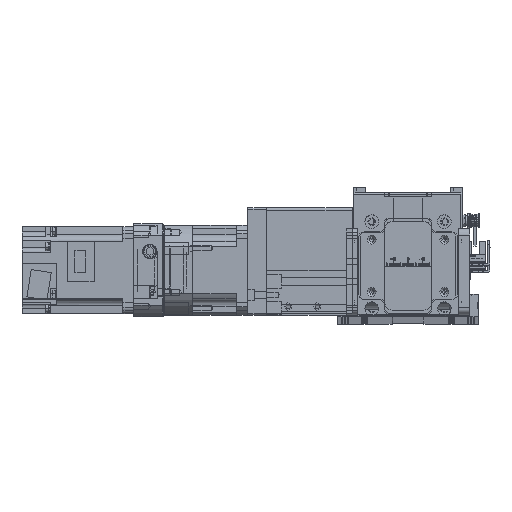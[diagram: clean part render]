
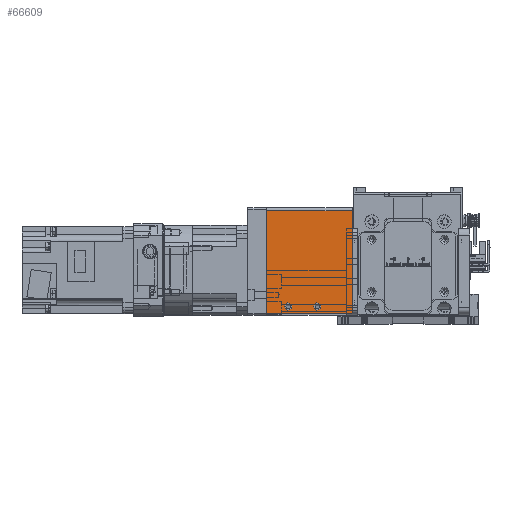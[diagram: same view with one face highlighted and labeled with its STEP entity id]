
A CAD part, top view. The second image highlights one B-rep face of the part: STEP entity #66609.
In plain terms, the highlighted planar face has unit normal (0, 0, 1).
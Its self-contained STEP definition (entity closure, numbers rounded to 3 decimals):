
#3441=FACE_BOUND('',#10524,.T.);
#3442=FACE_BOUND('',#10525,.T.);
#6314=FACE_OUTER_BOUND('',#10523,.T.);
#10523=EDGE_LOOP('',(#56927,#56928,#56929,#56930,#56931,#56932));
#10524=EDGE_LOOP('',(#56933));
#10525=EDGE_LOOP('',(#56934));
#14113=CIRCLE('',#74038,2.5);
#14117=CIRCLE('',#74044,2.5);
#14121=CIRCLE('',#74050,1.);
#14125=CIRCLE('',#74056,1.);
#18284=LINE('',#114963,#24277);
#18291=LINE('',#114981,#24284);
#18292=LINE('',#114985,#24285);
#18293=LINE('',#114986,#24286);
#24277=VECTOR('',#90660,10.);
#24284=VECTOR('',#90673,10.);
#24285=VECTOR('',#90676,10.);
#24286=VECTOR('',#90677,10.);
#31153=VERTEX_POINT('',#114929);
#31157=VERTEX_POINT('',#114941);
#31161=VERTEX_POINT('',#114953);
#31162=VERTEX_POINT('',#114954);
#31165=VERTEX_POINT('',#114962);
#31173=VERTEX_POINT('',#114980);
#31174=VERTEX_POINT('',#114982);
#31175=VERTEX_POINT('',#114984);
#39997=EDGE_CURVE('',#31153,#31153,#14113,.T.);
#40003=EDGE_CURVE('',#31157,#31157,#14117,.T.);
#40009=EDGE_CURVE('',#31161,#31162,#14121,.T.);
#40013=EDGE_CURVE('',#31162,#31165,#18284,.T.);
#40022=EDGE_CURVE('',#31161,#31173,#18291,.T.);
#40023=EDGE_CURVE('',#31174,#31173,#14125,.T.);
#40024=EDGE_CURVE('',#31175,#31174,#18292,.T.);
#40025=EDGE_CURVE('',#31165,#31175,#18293,.T.);
#56927=ORIENTED_EDGE('',*,*,#40009,.F.);
#56928=ORIENTED_EDGE('',*,*,#40022,.T.);
#56929=ORIENTED_EDGE('',*,*,#40023,.F.);
#56930=ORIENTED_EDGE('',*,*,#40024,.F.);
#56931=ORIENTED_EDGE('',*,*,#40025,.F.);
#56932=ORIENTED_EDGE('',*,*,#40013,.F.);
#56933=ORIENTED_EDGE('',*,*,#39997,.T.);
#56934=ORIENTED_EDGE('',*,*,#40003,.T.);
#63119=PLANE('',#74055);
#66609=ADVANCED_FACE('',(#6314,#3441,#3442),#63119,.T.);
#74038=AXIS2_PLACEMENT_3D('',#114930,#90624,#90625);
#74044=AXIS2_PLACEMENT_3D('',#114942,#90638,#90639);
#74050=AXIS2_PLACEMENT_3D('',#114955,#90652,#90653);
#74055=AXIS2_PLACEMENT_3D('',#114979,#90671,#90672);
#74056=AXIS2_PLACEMENT_3D('',#114983,#90674,#90675);
#90624=DIRECTION('center_axis',(0.,0.,-1.));
#90625=DIRECTION('ref_axis',(1.,0.,0.));
#90638=DIRECTION('center_axis',(0.,0.,-1.));
#90639=DIRECTION('ref_axis',(1.,0.,0.));
#90652=DIRECTION('center_axis',(0.,0.,-1.));
#90653=DIRECTION('ref_axis',(-0.707,-0.707,0.));
#90660=DIRECTION('',(0.,1.,0.));
#90671=DIRECTION('center_axis',(0.,0.,1.));
#90672=DIRECTION('ref_axis',(0.,-1.,0.));
#90673=DIRECTION('',(1.,0.,0.));
#90674=DIRECTION('center_axis',(0.,0.,-1.));
#90675=DIRECTION('ref_axis',(0.707,-0.707,0.));
#90676=DIRECTION('',(0.,-1.,0.));
#90677=DIRECTION('',(1.,0.,0.));
#114929=CARTESIAN_POINT('',(-17.,-31.5,40.));
#114930=CARTESIAN_POINT('Origin',(-14.5,-31.5,40.));
#114941=CARTESIAN_POINT('',(3.,-31.5,40.));
#114942=CARTESIAN_POINT('Origin',(5.5,-31.5,40.));
#114953=CARTESIAN_POINT('',(-28.5,-36.5,40.));
#114954=CARTESIAN_POINT('',(-29.5,-35.5,40.));
#114955=CARTESIAN_POINT('Origin',(-28.5,-35.5,40.));
#114962=CARTESIAN_POINT('',(-29.5,34.5,40.));
#114963=CARTESIAN_POINT('',(-29.5,36.5,40.));
#114979=CARTESIAN_POINT('Origin',(0.,36.5,40.));
#114980=CARTESIAN_POINT('',(28.5,-36.5,40.));
#114981=CARTESIAN_POINT('',(0.,-36.5,40.));
#114982=CARTESIAN_POINT('',(29.5,-35.5,40.));
#114983=CARTESIAN_POINT('Origin',(28.5,-35.5,40.));
#114984=CARTESIAN_POINT('',(29.5,34.5,40.));
#114985=CARTESIAN_POINT('',(29.5,36.5,40.));
#114986=CARTESIAN_POINT('',(0.,34.5,40.));
